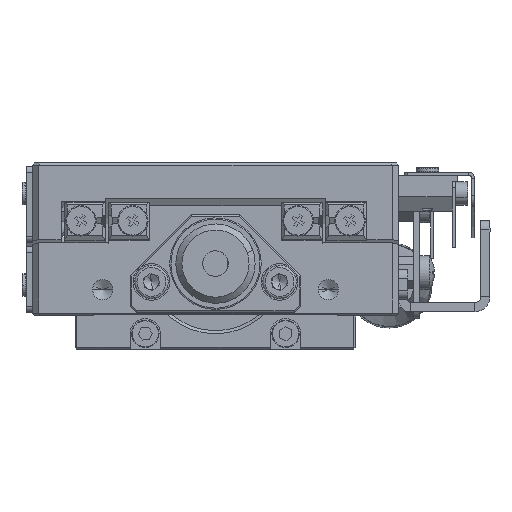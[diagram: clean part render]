
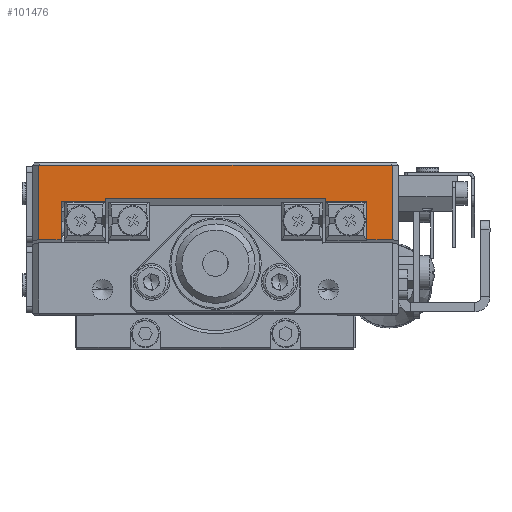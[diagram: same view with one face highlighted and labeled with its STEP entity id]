
A CAD part, left-side view. The second image highlights one B-rep face of the part: STEP entity #101476.
In plain terms, the highlighted planar face has unit normal (-1, 0, 0).
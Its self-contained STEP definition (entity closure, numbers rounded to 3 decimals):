
#6070 = CARTESIAN_POINT ( 'NONE',  ( -30., 7.5, -11.071 ) ) ;
#10166 = EDGE_CURVE ( 'NONE', #135497, #93703, #116783, .T. ) ;
#11422 = CARTESIAN_POINT ( 'NONE',  ( -30., 6.5, -38.487 ) ) ;
#11774 = ORIENTED_EDGE ( 'NONE', *, *, #14706, .F. ) ;
#12787 = CARTESIAN_POINT ( 'NONE',  ( -30., 61.8, -11.071 ) ) ;
#13439 = ORIENTED_EDGE ( 'NONE', *, *, #125614, .T. ) ;
#14706 = EDGE_CURVE ( 'NONE', #41961, #78732, #45418, .T. ) ;
#17023 = DIRECTION ( 'NONE',  ( 0., 0., -1. ) ) ;
#17711 = LINE ( 'NONE', #37503, #107041 ) ;
#18072 = VECTOR ( 'NONE', #89381, 1000. ) ;
#18237 = LINE ( 'NONE', #51240, #90964 ) ;
#18525 = EDGE_CURVE ( 'NONE', #78732, #63568, #18237, .T. ) ;
#19432 = CARTESIAN_POINT ( 'NONE',  ( -30., 65.5, -38.487 ) ) ;
#29008 = VECTOR ( 'NONE', #81813, 1000. ) ;
#29686 = CARTESIAN_POINT ( 'NONE',  ( -30., 65.5, 1.1 ) ) ;
#32287 = VECTOR ( 'NONE', #49990, 1000. ) ;
#34321 = LINE ( 'NONE', #102900, #67489 ) ;
#34682 = CARTESIAN_POINT ( 'NONE',  ( -30., 66.5, -4.33 ) ) ;
#36721 = CARTESIAN_POINT ( 'NONE',  ( -30., 54.55, -4.85 ) ) ;
#37199 = FACE_OUTER_BOUND ( 'NONE', #76463, .T. ) ;
#37503 = CARTESIAN_POINT ( 'NONE',  ( -30., 66.5, -11.071 ) ) ;
#38625 = VERTEX_POINT ( 'NONE', #29686 ) ;
#41635 = VERTEX_POINT ( 'NONE', #85721 ) ;
#41961 = VERTEX_POINT ( 'NONE', #68070 ) ;
#42212 = ORIENTED_EDGE ( 'NONE', *, *, #45808, .F. ) ;
#42877 = LINE ( 'NONE', #130061, #18072 ) ;
#44392 = VERTEX_POINT ( 'NONE', #12787 ) ;
#45418 = LINE ( 'NONE', #34682, #129781 ) ;
#45808 = EDGE_CURVE ( 'NONE', #44392, #125043, #17711, .T. ) ;
#47574 = CARTESIAN_POINT ( 'NONE',  ( -30., 61.8, -15. ) ) ;
#49990 = DIRECTION ( 'NONE',  ( 0., 0., -1. ) ) ;
#51240 = CARTESIAN_POINT ( 'NONE',  ( -30., 54.55, -9. ) ) ;
#59290 = EDGE_CURVE ( 'NONE', #93703, #114489, #79183, .T. ) ;
#59976 = DIRECTION ( 'NONE',  ( 0., 0., 1. ) ) ;
#60057 = VERTEX_POINT ( 'NONE', #110271 ) ;
#60117 = ORIENTED_EDGE ( 'NONE', *, *, #10166, .F. ) ;
#60200 = LINE ( 'NONE', #93399, #109974 ) ;
#62787 = ORIENTED_EDGE ( 'NONE', *, *, #76435, .F. ) ;
#63568 = VERTEX_POINT ( 'NONE', #36721 ) ;
#63666 = LINE ( 'NONE', #19432, #32287 ) ;
#66889 = LINE ( 'NONE', #121350, #93421 ) ;
#67489 = VECTOR ( 'NONE', #80305, 1000. ) ;
#68067 = DIRECTION ( 'NONE',  ( 0., 1., 0. ) ) ;
#68070 = CARTESIAN_POINT ( 'NONE',  ( -30., 18.45, -4.33 ) ) ;
#69394 = EDGE_CURVE ( 'NONE', #38625, #125043, #63666, .T. ) ;
#70228 = CARTESIAN_POINT ( 'NONE',  ( -30., 11.7, -9. ) ) ;
#72812 = CARTESIAN_POINT ( 'NONE',  ( -30., 54.55, -4.33 ) ) ;
#74021 = DIRECTION ( 'NONE',  ( 0., 1., 0. ) ) ;
#76435 = EDGE_CURVE ( 'NONE', #60057, #44392, #92492, .T. ) ;
#76463 = EDGE_LOOP ( 'NONE', ( #13439, #92433, #100012, #42212, #62787, #120264, #87093, #11774, #105335, #96738, #91664, #60117 ) ) ;
#78387 = DIRECTION ( 'NONE',  ( 0., 0., 1. ) ) ;
#78732 = VERTEX_POINT ( 'NONE', #72812 ) ;
#79183 = LINE ( 'NONE', #70228, #128768 ) ;
#80305 = DIRECTION ( 'NONE',  ( 0., 1., 0. ) ) ;
#81813 = DIRECTION ( 'NONE',  ( 0., 1., 0. ) ) ;
#82812 = DIRECTION ( 'NONE',  ( 0., 1., 0. ) ) ;
#83572 = CARTESIAN_POINT ( 'NONE',  ( -30., 65.5, -11.071 ) ) ;
#83696 = EDGE_CURVE ( 'NONE', #109004, #38625, #102458, .T. ) ;
#85721 = CARTESIAN_POINT ( 'NONE',  ( -30., 18.45, -4.85 ) ) ;
#87093 = ORIENTED_EDGE ( 'NONE', *, *, #18525, .F. ) ;
#88940 = CARTESIAN_POINT ( 'NONE',  ( -30., 6.5, 1.1 ) ) ;
#89381 = DIRECTION ( 'NONE',  ( 0., 0., 1. ) ) ;
#90312 = DIRECTION ( 'NONE',  ( 0., 1., 0. ) ) ;
#90964 = VECTOR ( 'NONE', #125231, 1000. ) ;
#91664 = ORIENTED_EDGE ( 'NONE', *, *, #59290, .F. ) ;
#92433 = ORIENTED_EDGE ( 'NONE', *, *, #83696, .T. ) ;
#92492 = LINE ( 'NONE', #47574, #115774 ) ;
#93399 = CARTESIAN_POINT ( 'NONE',  ( -30., 66.5, -4.85 ) ) ;
#93421 = VECTOR ( 'NONE', #78387, 1000. ) ;
#93703 = VERTEX_POINT ( 'NONE', #100452 ) ;
#96738 = ORIENTED_EDGE ( 'NONE', *, *, #118827, .F. ) ;
#97329 = CARTESIAN_POINT ( 'NONE',  ( -30., 7.5, 1.1 ) ) ;
#100012 = ORIENTED_EDGE ( 'NONE', *, *, #69394, .T. ) ;
#100452 = CARTESIAN_POINT ( 'NONE',  ( -30., 11.7, -11.071 ) ) ;
#101476 = ADVANCED_FACE ( 'NONE', ( #37199 ), #125154, .T. ) ;
#102458 = LINE ( 'NONE', #88940, #127264 ) ;
#102900 = CARTESIAN_POINT ( 'NONE',  ( -30., 66.5, -4.85 ) ) ;
#105335 = ORIENTED_EDGE ( 'NONE', *, *, #129010, .F. ) ;
#106225 = DIRECTION ( 'NONE',  ( -1., 0., 0. ) ) ;
#107041 = VECTOR ( 'NONE', #68067, 1000. ) ;
#109004 = VERTEX_POINT ( 'NONE', #97329 ) ;
#109974 = VECTOR ( 'NONE', #82812, 1000. ) ;
#110271 = CARTESIAN_POINT ( 'NONE',  ( -30., 61.8, -4.85 ) ) ;
#113700 = CARTESIAN_POINT ( 'NONE',  ( -30., 66.5, -11.071 ) ) ;
#114489 = VERTEX_POINT ( 'NONE', #128026 ) ;
#115774 = VECTOR ( 'NONE', #17023, 1000. ) ;
#116783 = LINE ( 'NONE', #113700, #29008 ) ;
#116879 = DIRECTION ( 'NONE',  ( 0., -1., 0. ) ) ;
#118827 = EDGE_CURVE ( 'NONE', #114489, #41635, #34321, .T. ) ;
#119246 = AXIS2_PLACEMENT_3D ( 'NONE', #11422, #106225, #116879 ) ;
#120264 = ORIENTED_EDGE ( 'NONE', *, *, #129742, .F. ) ;
#121350 = CARTESIAN_POINT ( 'NONE',  ( -30., 18.45, -8.5 ) ) ;
#125043 = VERTEX_POINT ( 'NONE', #83572 ) ;
#125154 = PLANE ( 'NONE',  #119246 ) ;
#125231 = DIRECTION ( 'NONE',  ( 0., 0., -1. ) ) ;
#125614 = EDGE_CURVE ( 'NONE', #135497, #109004, #42877, .T. ) ;
#127264 = VECTOR ( 'NONE', #90312, 1000. ) ;
#128026 = CARTESIAN_POINT ( 'NONE',  ( -30., 11.7, -4.85 ) ) ;
#128768 = VECTOR ( 'NONE', #59976, 1000. ) ;
#129010 = EDGE_CURVE ( 'NONE', #41635, #41961, #66889, .T. ) ;
#129742 = EDGE_CURVE ( 'NONE', #63568, #60057, #60200, .T. ) ;
#129781 = VECTOR ( 'NONE', #74021, 1000. ) ;
#130061 = CARTESIAN_POINT ( 'NONE',  ( -30., 7.5, -38.487 ) ) ;
#135497 = VERTEX_POINT ( 'NONE', #6070 ) ;
